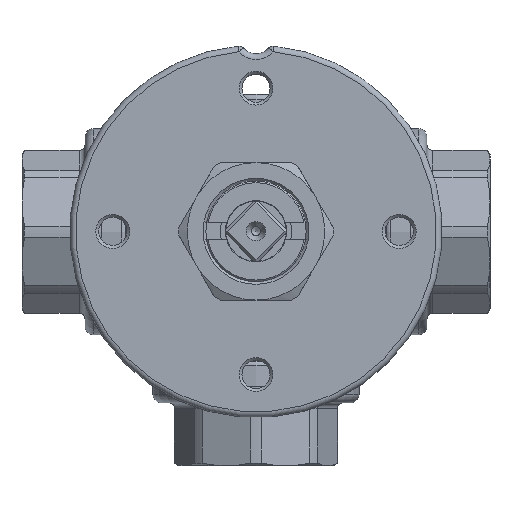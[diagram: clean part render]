
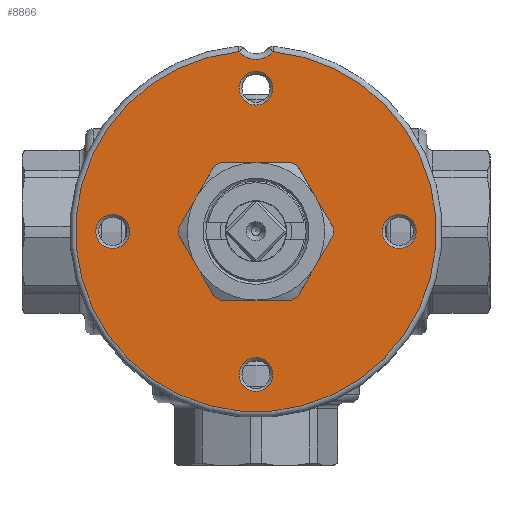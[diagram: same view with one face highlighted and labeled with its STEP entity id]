
A CAD part, top view. The second image highlights one B-rep face of the part: STEP entity #8866.
In plain terms, the highlighted planar face has unit normal (0, 0, 1) as drawn and (-1, 0, 0) by its records, which use the part's own axes.
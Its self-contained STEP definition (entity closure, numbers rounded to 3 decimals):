
#8782=CARTESIAN_POINT('',(-12.5,2.959,-25.0));
#8783=VERTEX_POINT('',#8782);
#8784=CARTESIAN_POINT('',(-12.5,0.,-25.0));
#8785=DIRECTION('',(-1.0,0.0,0.0));
#8786=DIRECTION('',(0.0,-1.0,0.0));
#8787=AXIS2_PLACEMENT_3D('',#8784,#8785,#8786);
#8788=CIRCLE('',#8787,2.959);
#8789=EDGE_CURVE('',#8783,#8783,#8788,.T.);
#8794=CARTESIAN_POINT('',(-12.5,16.25,0.0));
#8795=DIRECTION('',(-1.0,0.0,0.0));
#8796=DIRECTION('',(0.0,0.0,1.0));
#8797=AXIS2_PLACEMENT_3D('',#8794,#8795,#8796);
#8798=PLANE('',#8797);
#8799=CARTESIAN_POINT('',(-12.5,3.002,31.357));
#8800=VERTEX_POINT('',#8799);
#8801=CARTESIAN_POINT('',(-12.5,-3.002,31.357));
#8802=VERTEX_POINT('',#8801);
#8803=CARTESIAN_POINT('',(-12.5,0.,34.0));
#8804=DIRECTION('',(-1.0,0.0,0.0));
#8805=DIRECTION('',(0.0,0.0,-1.0));
#8806=AXIS2_PLACEMENT_3D('',#8803,#8804,#8805);
#8807=CIRCLE('',#8806,4.0);
#8808=EDGE_CURVE('',#8800,#8802,#8807,.T.);
#8809=ORIENTED_EDGE('',*,*,#8808,.F.);
#8810=CARTESIAN_POINT('',(-12.5,0.,0.0));
#8811=DIRECTION('',(1.0,0.0,0.0));
#8812=DIRECTION('',(0.0,-1.0,0.0));
#8813=AXIS2_PLACEMENT_3D('',#8810,#8811,#8812);
#8814=CIRCLE('',#8813,31.5);
#8815=EDGE_CURVE('',#8802,#8800,#8814,.T.);
#8816=ORIENTED_EDGE('',*,*,#8815,.F.);
#8817=EDGE_LOOP('',(#8809,#8816));
#8818=FACE_OUTER_BOUND('',#8817,.T.);
#8819=CARTESIAN_POINT('',(-12.5,27.958,0.));
#8820=VERTEX_POINT('',#8819);
#8821=CARTESIAN_POINT('',(-12.5,25.0,0.0));
#8822=DIRECTION('',(-1.0,0.0,0.0));
#8823=DIRECTION('',(0.0,-1.0,0.0));
#8824=AXIS2_PLACEMENT_3D('',#8821,#8822,#8823);
#8825=CIRCLE('',#8824,2.958);
#8826=EDGE_CURVE('',#8820,#8820,#8825,.T.);
#8827=ORIENTED_EDGE('',*,*,#8826,.F.);
#8828=EDGE_LOOP('',(#8827));
#8829=FACE_BOUND('',#8828,.T.);
#8830=CARTESIAN_POINT('',(-12.5,2.959,25.0));
#8831=VERTEX_POINT('',#8830);
#8832=CARTESIAN_POINT('',(-12.5,0.,25.0));
#8833=DIRECTION('',(-1.0,0.0,0.0));
#8834=DIRECTION('',(0.0,-1.0,0.0));
#8835=AXIS2_PLACEMENT_3D('',#8832,#8833,#8834);
#8836=CIRCLE('',#8835,2.959);
#8837=EDGE_CURVE('',#8831,#8831,#8836,.T.);
#8838=ORIENTED_EDGE('',*,*,#8837,.F.);
#8839=EDGE_LOOP('',(#8838));
#8840=FACE_BOUND('',#8839,.T.);
#8841=CARTESIAN_POINT('',(-12.5,-9.5,0.));
#8842=VERTEX_POINT('',#8841);
#8843=CARTESIAN_POINT('',(-12.5,0.,0.0));
#8844=DIRECTION('',(1.0,0.0,0.0));
#8845=DIRECTION('',(0.0,1.0,0.0));
#8846=AXIS2_PLACEMENT_3D('',#8843,#8844,#8845);
#8847=CIRCLE('',#8846,9.5);
#8848=EDGE_CURVE('',#8842,#8842,#8847,.T.);
#8849=ORIENTED_EDGE('',*,*,#8848,.T.);
#8850=EDGE_LOOP('',(#8849));
#8851=FACE_BOUND('',#8850,.T.);
#8852=CARTESIAN_POINT('',(-12.5,-22.042,0.));
#8853=VERTEX_POINT('',#8852);
#8854=CARTESIAN_POINT('',(-12.5,-25.0,0.0));
#8855=DIRECTION('',(-1.0,0.0,0.0));
#8856=DIRECTION('',(0.0,-1.0,0.0));
#8857=AXIS2_PLACEMENT_3D('',#8854,#8855,#8856);
#8858=CIRCLE('',#8857,2.958);
#8859=EDGE_CURVE('',#8853,#8853,#8858,.T.);
#8860=ORIENTED_EDGE('',*,*,#8859,.F.);
#8861=EDGE_LOOP('',(#8860));
#8862=FACE_BOUND('',#8861,.T.);
#8863=ORIENTED_EDGE('',*,*,#8789,.F.);
#8864=EDGE_LOOP('',(#8863));
#8865=FACE_BOUND('',#8864,.T.);
#8866=ADVANCED_FACE('',(#8818,#8829,#8840,#8851,#8862,#8865),#8798,.T.);
